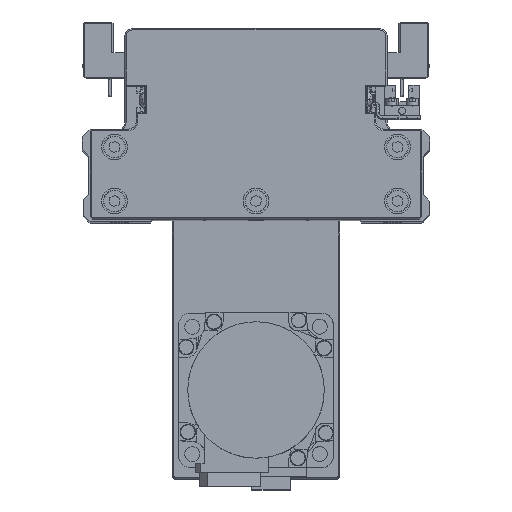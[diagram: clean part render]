
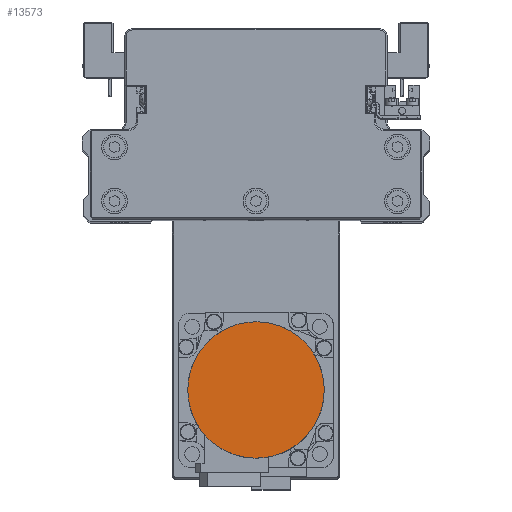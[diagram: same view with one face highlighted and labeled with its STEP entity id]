
A CAD part, top view. The second image highlights one B-rep face of the part: STEP entity #13573.
In plain terms, the highlighted planar face has unit normal (0, 0, 1) as drawn and (0, 0, -1) by its records, which use the part's own axes.
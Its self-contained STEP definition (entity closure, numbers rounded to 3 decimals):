
#1540 = CARTESIAN_POINT ( 'NONE',  ( 0., 0., -109.7 ) ) ;
#1612 = CARTESIAN_POINT ( 'NONE',  ( 17.512, 19.965, -109.7 ) ) ;
#1747 = CARTESIAN_POINT ( 'NONE',  ( -21.07, -16.165, -109.7 ) ) ;
#1817 = CARTESIAN_POINT ( 'NONE',  ( -13.28, 22.998, -109.7 ) ) ;
#1945 = CARTESIAN_POINT ( 'NONE',  ( 8.539, -25.147, -109.7 ) ) ;
#2138 = CARTESIAN_POINT ( 'NONE',  ( 26.5, 0., -109.7 ) ) ;
#4491 = EDGE_CURVE ( 'NONE', #15277, #32684, #33859, .T. ) ;
#4647 = CARTESIAN_POINT ( 'NONE',  ( 22.998, 13.28, -109.7 ) ) ;
#4774 = CARTESIAN_POINT ( 'NONE',  ( -25.147, -8.539, -109.7 ) ) ;
#4844 = CARTESIAN_POINT ( 'NONE',  ( -6.871, 25.652, -109.7 ) ) ;
#4940 = ORIENTED_EDGE ( 'NONE', *, *, #13584, .F. ) ;
#4979 = CARTESIAN_POINT ( 'NONE',  ( 1.734, -26.5, -109.7 ) ) ;
#5049 = CARTESIAN_POINT ( 'NONE',  ( -26.5, 1.734, -109.7 ) ) ;
#5182 = CARTESIAN_POINT ( 'NONE',  ( 25.652, -6.871, -109.7 ) ) ;
#7685 = CARTESIAN_POINT ( 'NONE',  ( 25.652, 6.871, -109.7 ) ) ;
#7809 = CARTESIAN_POINT ( 'NONE',  ( -26.5, -1.734, -109.7 ) ) ;
#7884 = CARTESIAN_POINT ( 'NONE',  ( 1.734, 26.5, -109.7 ) ) ;
#7889 = B_SPLINE_CURVE_WITH_KNOTS ( 'NONE', 3,
 ( #35546, #7809, #20174, #32529, #4774, #17143, #29493, #1747, #14098, #26457, #38783, #11050, #23418, #35748, #8009, #20381, #32729, #4979, #17351, #29694, #1945, #14294, #26647, #38981, #11254, #23620, #35956, #8213, #20583, #32928, #5182, #17547, #29894, #2138 ),
 .UNSPECIFIED., .F., .F.,
 ( 4, 2, 2, 2, 2, 2, 2, 2, 2, 2, 2, 2, 2, 2, 2, 2, 4 ),
 ( 0., 0.063, 0.125, 0.188, 0.25, 0.312, 0.375, 0.437, 0.5, 0.562, 0.625, 0.687, 0.75, 0.813, 0.875, 0.938, 1. ),
 .UNSPECIFIED. ) ;
#8009 = CARTESIAN_POINT ( 'NONE',  ( -6.871, -25.652, -109.7 ) ) ;
#8076 = CARTESIAN_POINT ( 'NONE',  ( -25.147, 8.539, -109.7 ) ) ;
#8213 = CARTESIAN_POINT ( 'NONE',  ( 22.998, -13.28, -109.7 ) ) ;
#10226 = ORIENTED_EDGE ( 'NONE', *, *, #4491, .F. ) ;
#10726 = CARTESIAN_POINT ( 'NONE',  ( 26.5, 0., -109.7 ) ) ;
#10929 = CARTESIAN_POINT ( 'NONE',  ( 8.539, 25.147, -109.7 ) ) ;
#11050 = CARTESIAN_POINT ( 'NONE',  ( -13.28, -22.998, -109.7 ) ) ;
#11127 = CARTESIAN_POINT ( 'NONE',  ( -21.07, 16.165, -109.7 ) ) ;
#11254 = CARTESIAN_POINT ( 'NONE',  ( 17.512, -19.965, -109.7 ) ) ;
#13178 = CARTESIAN_POINT ( 'NONE',  ( 26.5, 0., -109.7 ) ) ;
#13573 = ADVANCED_FACE ( 'NONE', ( #16939 ), #29293, .F. ) ;
#13584 = EDGE_CURVE ( 'NONE', #32684, #15277, #7889, .T. ) ;
#13895 = DIRECTION ( 'NONE',  ( 0., 0., 1. ) ) ;
#13968 = CARTESIAN_POINT ( 'NONE',  ( 16.165, 21.07, -109.7 ) ) ;
#14098 = CARTESIAN_POINT ( 'NONE',  ( -19.965, -17.512, -109.7 ) ) ;
#14169 = CARTESIAN_POINT ( 'NONE',  ( -16.165, 21.07, -109.7 ) ) ;
#14294 = CARTESIAN_POINT ( 'NONE',  ( 11.744, -23.819, -109.7 ) ) ;
#15277 = VERTEX_POINT ( 'NONE', #13178 ) ;
#16939 = FACE_OUTER_BOUND ( 'NONE', #22247, .T. ) ;
#17013 = CARTESIAN_POINT ( 'NONE',  ( 21.07, 16.165, -109.7 ) ) ;
#17143 = CARTESIAN_POINT ( 'NONE',  ( -23.819, -11.744, -109.7 ) ) ;
#17218 = CARTESIAN_POINT ( 'NONE',  ( -8.539, 25.147, -109.7 ) ) ;
#17351 = CARTESIAN_POINT ( 'NONE',  ( 3.469, -26.329, -109.7 ) ) ;
#17421 = CARTESIAN_POINT ( 'NONE',  ( -26.5, 0., -109.7 ) ) ;
#17547 = CARTESIAN_POINT ( 'NONE',  ( 26.329, -3.469, -109.7 ) ) ;
#20058 = CARTESIAN_POINT ( 'NONE',  ( 25.147, 8.539, -109.7 ) ) ;
#20174 = CARTESIAN_POINT ( 'NONE',  ( -26.329, -3.469, -109.7 ) ) ;
#20254 = CARTESIAN_POINT ( 'NONE',  ( -1.734, 26.5, -109.7 ) ) ;
#20381 = CARTESIAN_POINT ( 'NONE',  ( -3.469, -26.329, -109.7 ) ) ;
#20449 = CARTESIAN_POINT ( 'NONE',  ( -25.652, 6.871, -109.7 ) ) ;
#20583 = CARTESIAN_POINT ( 'NONE',  ( 23.819, -11.744, -109.7 ) ) ;
#22247 = EDGE_LOOP ( 'NONE', ( #10226, #4940 ) ) ;
#23096 = CARTESIAN_POINT ( 'NONE',  ( 26.5, 1.734, -109.7 ) ) ;
#23301 = CARTESIAN_POINT ( 'NONE',  ( 6.871, 25.652, -109.7 ) ) ;
#23418 = CARTESIAN_POINT ( 'NONE',  ( -11.744, -23.819, -109.7 ) ) ;
#23496 = CARTESIAN_POINT ( 'NONE',  ( -22.998, 13.28, -109.7 ) ) ;
#23620 = CARTESIAN_POINT ( 'NONE',  ( 19.965, -17.512, -109.7 ) ) ;
#24564 = CARTESIAN_POINT ( 'NONE',  ( -26.5, 0., -109.7 ) ) ;
#26253 = DIRECTION ( 'NONE',  ( 1., 0., 0. ) ) ;
#26335 = CARTESIAN_POINT ( 'NONE',  ( 13.28, 22.998, -109.7 ) ) ;
#26457 = CARTESIAN_POINT ( 'NONE',  ( -17.512, -19.965, -109.7 ) ) ;
#26533 = CARTESIAN_POINT ( 'NONE',  ( -17.512, 19.965, -109.7 ) ) ;
#26647 = CARTESIAN_POINT ( 'NONE',  ( 13.28, -22.998, -109.7 ) ) ;
#29293 = PLANE ( 'NONE',  #29924 ) ;
#29367 = CARTESIAN_POINT ( 'NONE',  ( 19.965, 17.512, -109.7 ) ) ;
#29493 = CARTESIAN_POINT ( 'NONE',  ( -22.998, -13.28, -109.7 ) ) ;
#29571 = CARTESIAN_POINT ( 'NONE',  ( -11.744, 23.819, -109.7 ) ) ;
#29694 = CARTESIAN_POINT ( 'NONE',  ( 6.871, -25.652, -109.7 ) ) ;
#29894 = CARTESIAN_POINT ( 'NONE',  ( 26.5, -1.734, -109.7 ) ) ;
#29924 = AXIS2_PLACEMENT_3D ( 'NONE', #1540, #13895, #26253 ) ;
#32399 = CARTESIAN_POINT ( 'NONE',  ( 23.819, 11.744, -109.7 ) ) ;
#32529 = CARTESIAN_POINT ( 'NONE',  ( -25.652, -6.871, -109.7 ) ) ;
#32600 = CARTESIAN_POINT ( 'NONE',  ( -3.469, 26.329, -109.7 ) ) ;
#32684 = VERTEX_POINT ( 'NONE', #24564 ) ;
#32729 = CARTESIAN_POINT ( 'NONE',  ( -1.734, -26.5, -109.7 ) ) ;
#32807 = CARTESIAN_POINT ( 'NONE',  ( -26.329, 3.469, -109.7 ) ) ;
#32928 = CARTESIAN_POINT ( 'NONE',  ( 25.147, -8.539, -109.7 ) ) ;
#33859 = B_SPLINE_CURVE_WITH_KNOTS ( 'NONE', 3,
 ( #10726, #23096, #35421, #7685, #20058, #32399, #4647, #17013, #29367, #1612, #13968, #26335, #38659, #10929, #23301, #35624, #7884, #20254, #32600, #4844, #17218, #29571, #1817, #14169, #26533, #38857, #11127, #23496, #35824, #8076, #20449, #32807, #5049, #17421 ),
 .UNSPECIFIED., .F., .F.,
 ( 4, 2, 2, 2, 2, 2, 2, 2, 2, 2, 2, 2, 2, 2, 2, 2, 4 ),
 ( 0., 0.062, 0.125, 0.187, 0.25, 0.312, 0.375, 0.437, 0.5, 0.562, 0.625, 0.687, 0.75, 0.813, 0.875, 0.938, 1. ),
 .UNSPECIFIED. ) ;
#35421 = CARTESIAN_POINT ( 'NONE',  ( 26.329, 3.469, -109.7 ) ) ;
#35546 = CARTESIAN_POINT ( 'NONE',  ( -26.5, 0., -109.7 ) ) ;
#35624 = CARTESIAN_POINT ( 'NONE',  ( 3.469, 26.329, -109.7 ) ) ;
#35748 = CARTESIAN_POINT ( 'NONE',  ( -8.539, -25.147, -109.7 ) ) ;
#35824 = CARTESIAN_POINT ( 'NONE',  ( -23.819, 11.744, -109.7 ) ) ;
#35956 = CARTESIAN_POINT ( 'NONE',  ( 21.07, -16.165, -109.7 ) ) ;
#38659 = CARTESIAN_POINT ( 'NONE',  ( 11.744, 23.819, -109.7 ) ) ;
#38783 = CARTESIAN_POINT ( 'NONE',  ( -16.165, -21.07, -109.7 ) ) ;
#38857 = CARTESIAN_POINT ( 'NONE',  ( -19.965, 17.512, -109.7 ) ) ;
#38981 = CARTESIAN_POINT ( 'NONE',  ( 16.165, -21.07, -109.7 ) ) ;
